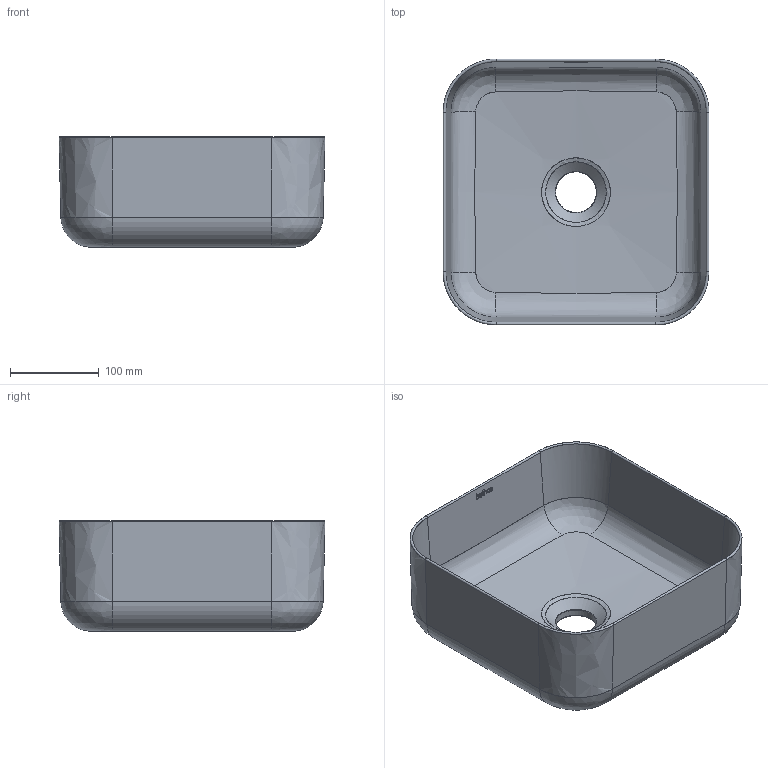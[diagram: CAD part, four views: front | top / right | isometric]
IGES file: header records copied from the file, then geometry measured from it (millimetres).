
Global section: file name: C:\Users\hp\Desktop\4921_4923_4924_Cube 30\4917_4919_4920_CUBE 30.igs; native system: Rhinoceros ( Mar  7 2025 ); preprocessor: Trout Lake IGES 012 Mar  7 2025; date: 250401.101215; units: millimetre
Bounding box: 300 x 300 x 125 mm (x, y, z)
Surface area: 373953.9 mm2 (no closed solid volume)
Topology: 0 solids, 0 shells, 112 faces, 702 edges, 693 vertices
Faces by surface type: bspline 112
